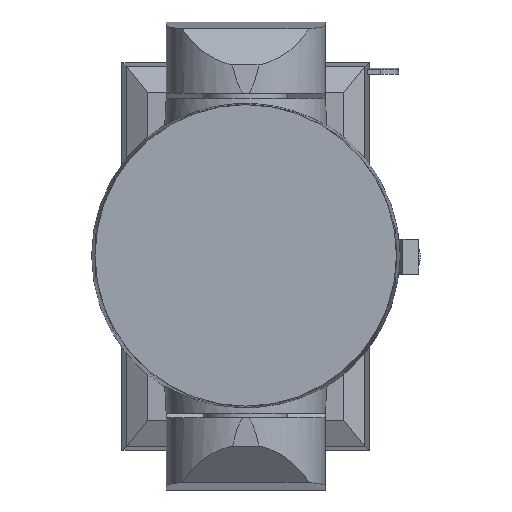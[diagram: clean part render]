
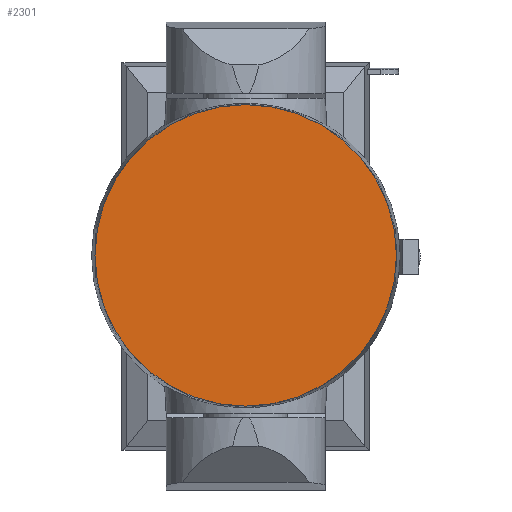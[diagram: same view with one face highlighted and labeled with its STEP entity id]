
A CAD part, top view. The second image highlights one B-rep face of the part: STEP entity #2301.
In plain terms, the highlighted planar face has unit normal (0, 0, 1) as drawn and (1, 0, 0) by its records, which use the part's own axes.
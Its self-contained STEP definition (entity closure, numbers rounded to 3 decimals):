
#146=CIRCLE('',#2542,89.965);
#446=ORIENTED_EDGE('',*,*,#925,.F.);
#925=EDGE_CURVE('',#1198,#1198,#146,.T.);
#1198=VERTEX_POINT('',#3627);
#1857=EDGE_LOOP('',(#446));
#2035=FACE_BOUND('',#1857,.T.);
#2174=PLANE('',#2549);
#2301=ADVANCED_FACE('',(#2035),#2174,.F.);
#2542=AXIS2_PLACEMENT_3D('',#3626,#2947,#2948);
#2549=AXIS2_PLACEMENT_3D('',#3726,#2965,#2966);
#2947=DIRECTION('',(-1.,0.,0.));
#2948=DIRECTION('',(0.,0.,1.));
#2965=DIRECTION('',(-1.,0.,0.));
#2966=DIRECTION('',(0.,0.,1.));
#3626=CARTESIAN_POINT('',(127.2,0.,0.));
#3627=CARTESIAN_POINT('',(127.2,0.,89.965));
#3726=CARTESIAN_POINT('',(127.2,0.,90.));
